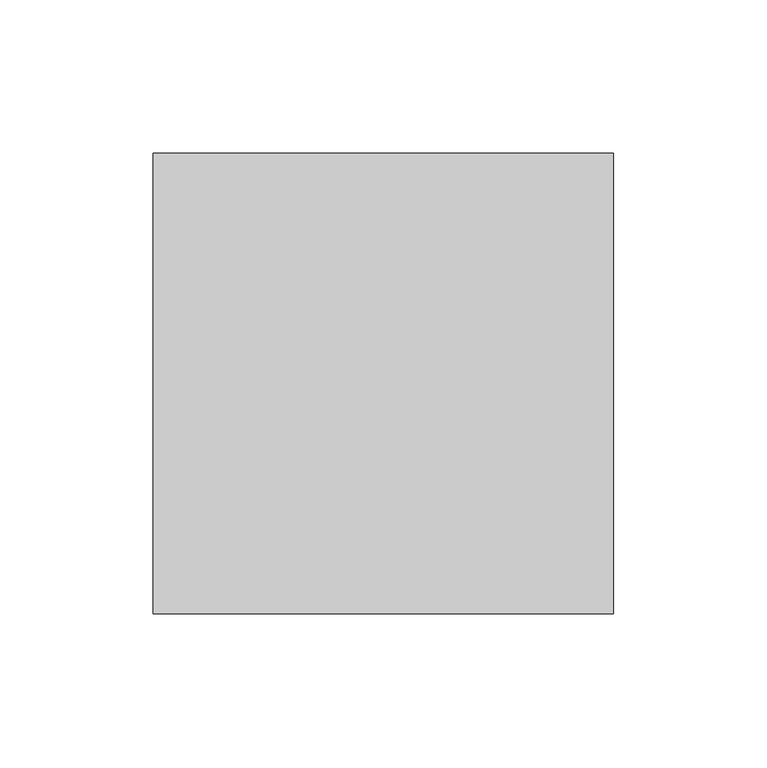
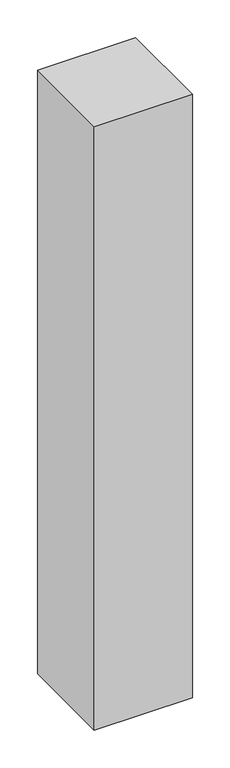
"""IFC4 building model written with IfcOpenShell, lengths in millimetres: member geometry, Угловой L-импост : Угловой L-импост."""

from ifc_helpers import new_model, si_unit, frame, origin, place, context, project, spatial, polyline, outline, extrude, source, transform, mapped, element, save


def member_98b1b2a4(model_context):
    return source(origin(), model_context, "Body", "SweptSolid", [
        extrude(outline(polyline([(75.0, 75.0), (75.0, -75.0), (-75.0, -75.0), (-75.0, 75.0), (75.0, 75.0)])), frame((0.0, 0.0, -975.0), z_axis=(0.0, 0.0, 1.0), x_axis=(1.0, 0.0, 0.0)), (0.0, 0.0, 1.0), 975.0),
    ])


if __name__ == "__main__":
    model = new_model("IFC4")
    model_context = context("Model", 3, world=origin())
    ifc_project = project(units=[si_unit("LENGTHUNIT", "METRE", prefix="MILLI")], contexts=[model_context])
    site = spatial("IfcSite", under=ifc_project)
    building = spatial("IfcBuilding", under=site)
    placement = place(None, origin())
    member_shape = member_98b1b2a4(model_context)
    element("IfcMember", 1, ObjectType="Угловой L-импост : Угловой L-импост", at=placement, inside=building, context=model_context, shape_type="MappedRepresentation", body=[
        mapped(member_shape, transform((0.0, 0.0, 0.0), x_axis=(1.0, 0.0, 0.0), y_axis=(0.0, 1.0, 0.0), z_axis=(0.0, 0.0, 1.0))),
    ])
    save(model, "model.ifc")
